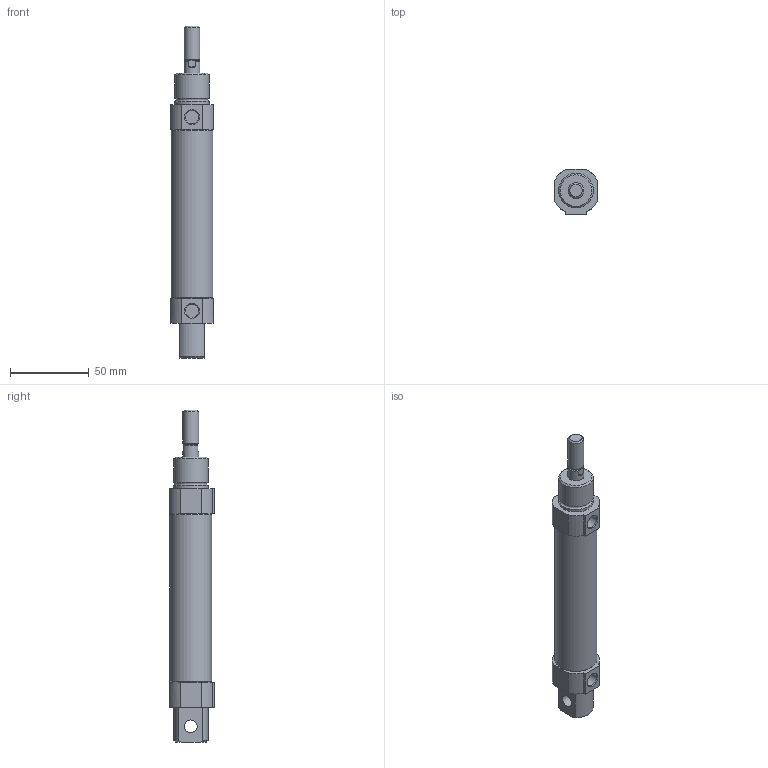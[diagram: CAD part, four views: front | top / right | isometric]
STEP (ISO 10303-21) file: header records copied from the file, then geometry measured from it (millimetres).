
FILE_DESCRIPTION((''),'2;1');
FILE_NAME('I:\3D電子目錄\氣缸\SDA\SDA25\SDA25\SDA25x75.stp','2007-08-06T10:32:44',('Administrator'),(''),'Autodesk Inventor 2008','Autodesk Inventor 2008','');
FILE_SCHEMA(('AUTOMOTIVE_DESIGN { 1 0 10303 214 1 1 1 1 }'));
Length unit declared in the file: millimetre
Products named in the file (1): SDA25X75
Bounding box: 27 x 28.5 x 211 mm (x, y, z)
Volume: 95821.7 mm3; surface area: 18292.2 mm2
Topology: 1 solids, 1 shells, 62 faces, 146 edges, 94 vertices
Faces by surface type: plane 30, cylinder 19, cone 10, bspline 2, torus 1
Full cylindrical faces by diameter (mm): 8 x1, 8.5 x2, 8.6 x1, 10 x2, 22 x2, 26.6 x1
Entity records: 1718 total; most frequent: CARTESIAN_POINT 307, DIRECTION 298, ORIENTED_EDGE 258, EDGE_CURVE 129, AXIS2_PLACEMENT_3D 116, VERTEX_POINT 93, EDGE_LOOP 88, VECTOR 66
